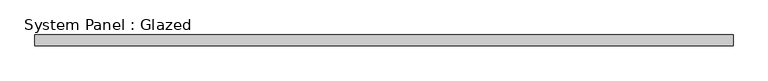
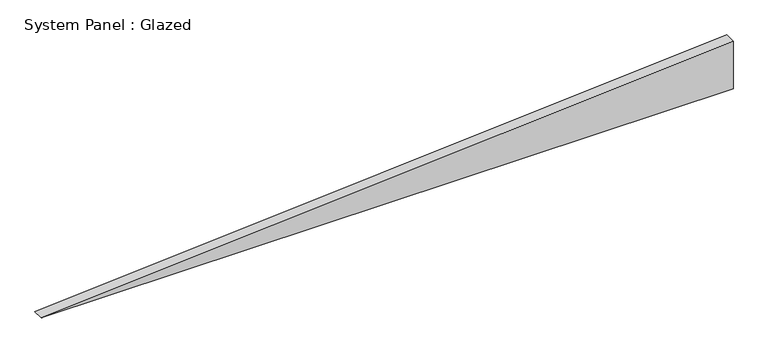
"""IFC4 building model written with IfcOpenShell, lengths in millimetres: plate geometry, System Panel : Glazed."""

from ifc_helpers import new_model, si_unit, frame, origin, place, context, project, spatial, polyline, outline, extrude, source, transform, mapped, element, save


def system_panel_glazed_87bd28ea(model_context):
    return source(origin(), model_context, "Body", "SweptSolid", [
        extrude(outline(polyline([(0.0, -805.5755824), (0.0, 805.5755824), (117.1343515, 805.5755824), (0.0, -805.5755824)])), frame((0.0, 19.05, 0.0), z_axis=(0.0, 1.0, 0.0), x_axis=(0.0, 0.0, 1.0)), (0.0, 0.0, 1.0), 25.4),
    ])


if __name__ == "__main__":
    model = new_model("IFC4")
    model_context = context("Model", 3, world=origin())
    ifc_project = project(units=[si_unit("LENGTHUNIT", "METRE", prefix="MILLI")], contexts=[model_context])
    site = spatial("IfcSite", under=ifc_project)
    building = spatial("IfcBuilding", under=site)
    placement = place(None, origin())
    system_panel_glazed_shape = system_panel_glazed_87bd28ea(model_context)
    element("IfcPlate", 1, ObjectType="System Panel : Glazed", at=placement, inside=building, context=model_context, shape_type="MappedRepresentation", body=[
        mapped(system_panel_glazed_shape, transform((0.0, 0.0, 0.0), x_axis=(1.0, 0.0, 0.0), y_axis=(0.0, 1.0, 0.0), z_axis=(0.0, 0.0, 1.0))),
    ])
    save(model, "model.ifc")
